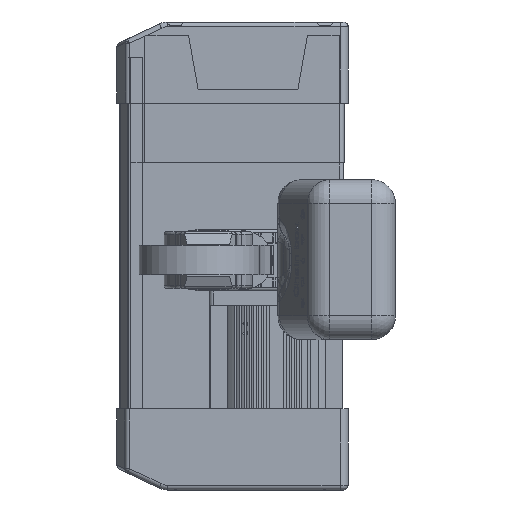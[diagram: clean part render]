
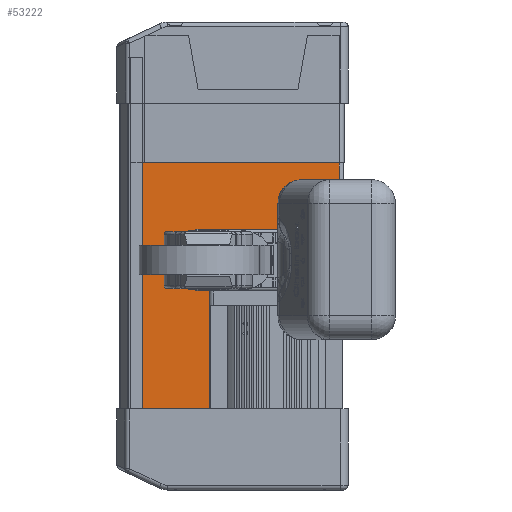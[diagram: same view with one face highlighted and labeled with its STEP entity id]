
A CAD part, front view. The second image highlights one B-rep face of the part: STEP entity #53222.
In plain terms, the highlighted planar face has unit normal (0, -1, 0).
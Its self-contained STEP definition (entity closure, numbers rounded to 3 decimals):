
#1923=LINE('',#87598,#5936);
#1953=LINE('',#87679,#5966);
#1954=LINE('',#87681,#5967);
#1955=LINE('',#87682,#5968);
#1956=LINE('',#87684,#5969);
#1957=LINE('',#87686,#5970);
#5936=VECTOR('',#66008,1000.);
#5966=VECTOR('',#66044,1000.);
#5967=VECTOR('',#66045,1000.);
#5968=VECTOR('',#66046,1000.);
#5969=VECTOR('',#66047,1000.);
#5970=VECTOR('',#66048,1000.);
#9720=B_SPLINE_CURVE_WITH_KNOTS('',3,(#87673,#87674,#87675,#87676),
 .UNSPECIFIED.,.F.,.F.,(4,4),(0.,0.986),.UNSPECIFIED.);
#9721=B_SPLINE_CURVE_WITH_KNOTS('',3,(#87688,#87689,#87690,#87691),
 .UNSPECIFIED.,.F.,.F.,(4,4),(0.356,1.),.UNSPECIFIED.);
#15428=ORIENTED_EDGE('',*,*,#29896,.T.);
#15429=ORIENTED_EDGE('',*,*,#29897,.T.);
#15430=ORIENTED_EDGE('',*,*,#29898,.F.);
#15431=ORIENTED_EDGE('',*,*,#29863,.T.);
#15432=ORIENTED_EDGE('',*,*,#29899,.T.);
#15433=ORIENTED_EDGE('',*,*,#29900,.T.);
#15434=ORIENTED_EDGE('',*,*,#29901,.T.);
#15435=ORIENTED_EDGE('',*,*,#29902,.T.);
#29863=EDGE_CURVE('',#37229,#37228,#1923,.T.);
#29896=EDGE_CURVE('',#37259,#37260,#9720,.T.);
#29897=EDGE_CURVE('',#37260,#37261,#1953,.T.);
#29898=EDGE_CURVE('',#37229,#37261,#1954,.F.);
#29899=EDGE_CURVE('',#37228,#37262,#1955,.T.);
#29900=EDGE_CURVE('',#37262,#37263,#1956,.T.);
#29901=EDGE_CURVE('',#37263,#37264,#1957,.T.);
#29902=EDGE_CURVE('',#37264,#37259,#9721,.T.);
#37228=VERTEX_POINT('',#87597);
#37229=VERTEX_POINT('',#87599);
#37259=VERTEX_POINT('',#87677);
#37260=VERTEX_POINT('',#87678);
#37261=VERTEX_POINT('',#87680);
#37262=VERTEX_POINT('',#87683);
#37263=VERTEX_POINT('',#87685);
#37264=VERTEX_POINT('',#87687);
#44342=EDGE_LOOP('',(#15428,#15429,#15430,#15431,#15432,#15433,#15434,#15435));
#48212=FACE_BOUND('',#44342,.T.);
#51417=PLANE('',#57827);
#53222=ADVANCED_FACE('',(#48212),#51417,.T.);
#57827=AXIS2_PLACEMENT_3D('',#87672,#66042,#66043);
#66008=DIRECTION('',(0.,0.,-1.));
#66042=DIRECTION('',(0.,-1.,0.));
#66043=DIRECTION('',(1.,0.,0.));
#66044=DIRECTION('',(0.,0.,1.));
#66045=DIRECTION('',(-1.,0.,0.));
#66046=DIRECTION('',(1.,0.,0.));
#66047=DIRECTION('',(0.,0.,1.));
#66048=DIRECTION('',(1.,0.,0.));
#87597=CARTESIAN_POINT('',(-139.392,-738.742,123.427));
#87598=CARTESIAN_POINT('',(-139.392,-738.742,359.427));
#87599=CARTESIAN_POINT('',(-139.392,-738.742,378.927));
#87672=CARTESIAN_POINT('',(63.,-738.742,227.427));
#87673=CARTESIAN_POINT('',(65.,-738.742,245.927));
#87674=CARTESIAN_POINT('',(65.,-738.742,280.927));
#87675=CARTESIAN_POINT('',(65.,-738.742,315.927));
#87676=CARTESIAN_POINT('',(65.,-738.742,350.927));
#87677=CARTESIAN_POINT('',(65.,-738.742,245.927));
#87678=CARTESIAN_POINT('',(65.,-738.742,350.927));
#87679=CARTESIAN_POINT('',(65.,-738.742,227.427));
#87680=CARTESIAN_POINT('',(65.,-738.742,378.927));
#87681=CARTESIAN_POINT('',(-137.,-738.742,378.927));
#87682=CARTESIAN_POINT('',(63.,-738.742,123.427));
#87683=CARTESIAN_POINT('',(-70.,-738.742,123.427));
#87684=CARTESIAN_POINT('',(-70.,-738.742,227.427));
#87685=CARTESIAN_POINT('',(-70.,-738.742,245.927));
#87686=CARTESIAN_POINT('',(63.,-738.742,245.927));
#87687=CARTESIAN_POINT('',(-65.001,-738.742,245.927));
#87688=CARTESIAN_POINT('',(-65.001,-738.742,245.927));
#87689=CARTESIAN_POINT('',(-21.667,-738.742,245.927));
#87690=CARTESIAN_POINT('',(21.666,-738.742,245.927));
#87691=CARTESIAN_POINT('',(65.,-738.742,245.927));
